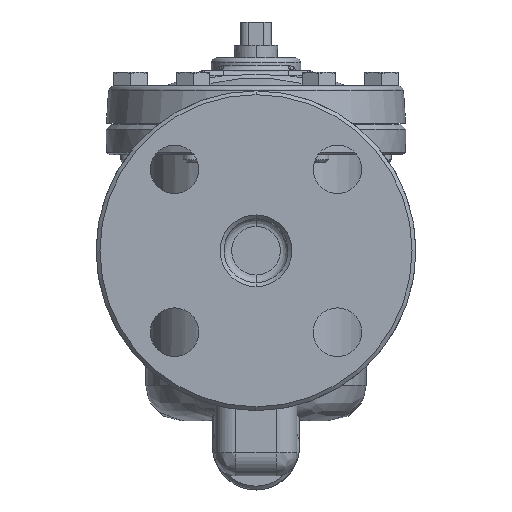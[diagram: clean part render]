
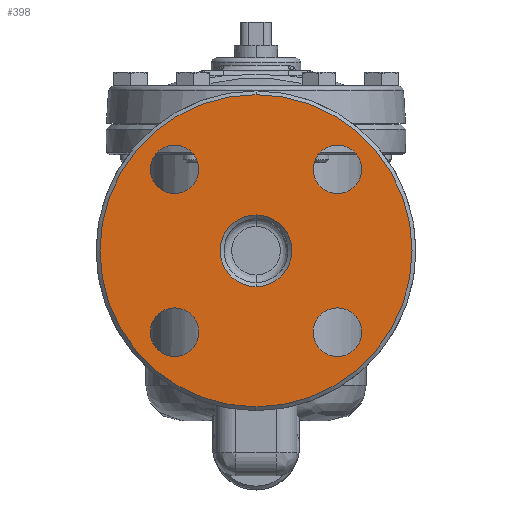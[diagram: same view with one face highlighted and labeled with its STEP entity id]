
A CAD part, left-side view. The second image highlights one B-rep face of the part: STEP entity #398.
In plain terms, the highlighted planar face has unit normal (-1, 0, 0).
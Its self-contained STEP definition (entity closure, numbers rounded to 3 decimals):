
#398=ADVANCED_FACE('',(#2102,#2103,#2104,#2105,#2106,#2107),#2101,.F.);
#2101=PLANE('',#5351);
#2102=FACE_OUTER_BOUND('',#5352,.T.);
#2103=FACE_BOUND('',#5353,.T.);
#2104=FACE_BOUND('',#5354,.T.);
#2105=FACE_BOUND('',#5355,.T.);
#2106=FACE_BOUND('',#5356,.T.);
#2107=FACE_BOUND('',#5357,.T.);
#5348=CARTESIAN_POINT('',(-87.5,-115.655,71.));
#5349=DIRECTION('',(1.,0.,0.));
#5350=DIRECTION('',(0.,0.,-1.));
#5351=AXIS2_PLACEMENT_3D('',#5348,#5349,#5350);
#5352=EDGE_LOOP('',(#7065,#7066));
#5353=EDGE_LOOP('',(#7067,#7068));
#5354=EDGE_LOOP('',(#7069,#7070));
#5355=EDGE_LOOP('',(#7071,#7072));
#5356=EDGE_LOOP('',(#7073,#7074));
#5357=EDGE_LOOP('',(#7075,#7076));
#7065=ORIENTED_EDGE('',*,*,#7985,.T.);
#7066=ORIENTED_EDGE('',*,*,#7986,.T.);
#7067=ORIENTED_EDGE('',*,*,#7987,.F.);
#7068=ORIENTED_EDGE('',*,*,#7988,.F.);
#7069=ORIENTED_EDGE('',*,*,#7989,.F.);
#7070=ORIENTED_EDGE('',*,*,#7990,.F.);
#7071=ORIENTED_EDGE('',*,*,#7991,.F.);
#7072=ORIENTED_EDGE('',*,*,#7992,.F.);
#7073=ORIENTED_EDGE('',*,*,#7993,.F.);
#7074=ORIENTED_EDGE('',*,*,#7994,.F.);
#7075=ORIENTED_EDGE('',*,*,#7995,.F.);
#7076=ORIENTED_EDGE('',*,*,#7996,.F.);
#7985=EDGE_CURVE('',#10868,#10869,#10870,.T.);
#7986=EDGE_CURVE('',#10869,#10868,#10876,.T.);
#7987=EDGE_CURVE('',#10882,#10883,#10884,.T.);
#7988=EDGE_CURVE('',#10883,#10882,#10890,.T.);
#7989=EDGE_CURVE('',#10896,#10897,#10898,.T.);
#7990=EDGE_CURVE('',#10897,#10896,#10904,.T.);
#7991=EDGE_CURVE('',#10910,#10911,#10912,.T.);
#7992=EDGE_CURVE('',#10911,#10910,#10918,.T.);
#7993=EDGE_CURVE('',#10924,#10925,#10926,.T.);
#7994=EDGE_CURVE('',#10925,#10924,#10932,.T.);
#7995=EDGE_CURVE('',#10938,#10939,#10940,.T.);
#7996=EDGE_CURVE('',#10939,#10938,#10946,.T.);
#10868=VERTEX_POINT('',#14715);
#10869=VERTEX_POINT('',#14716);
#10870=CIRCLE('',#14720,61.);
#10876=CIRCLE('',#14724,61.);
#10882=VERTEX_POINT('',#14725);
#10883=VERTEX_POINT('',#14726);
#10884=CIRCLE('',#14730,9.5);
#10890=CIRCLE('',#14734,9.5);
#10896=VERTEX_POINT('',#14735);
#10897=VERTEX_POINT('',#14736);
#10898=CIRCLE('',#14740,9.5);
#10904=CIRCLE('',#14744,9.5);
#10910=VERTEX_POINT('',#14745);
#10911=VERTEX_POINT('',#14746);
#10912=CIRCLE('',#14750,9.5);
#10918=CIRCLE('',#14754,9.5);
#10924=VERTEX_POINT('',#14755);
#10925=VERTEX_POINT('',#14756);
#10926=CIRCLE('',#14760,14.);
#10932=CIRCLE('',#14764,14.);
#10938=VERTEX_POINT('',#14765);
#10939=VERTEX_POINT('',#14766);
#10940=CIRCLE('',#14770,9.5);
#10946=CIRCLE('',#14774,9.5);
#14715=CARTESIAN_POINT('',(-87.5,0.,61.));
#14716=CARTESIAN_POINT('',(-87.5,0.,-61.));
#14717=CARTESIAN_POINT('',(-87.5,0.,0.));
#14718=DIRECTION('',(-1.,0.,0.));
#14719=DIRECTION('',(0.,0.,1.));
#14720=AXIS2_PLACEMENT_3D('',#14717,#14718,#14719);
#14721=CARTESIAN_POINT('',(-87.5,0.,0.));
#14722=DIRECTION('',(-1.,0.,0.));
#14723=DIRECTION('',(0.,0.,1.));
#14724=AXIS2_PLACEMENT_3D('',#14721,#14722,#14723);
#14725=CARTESIAN_POINT('',(-87.5,31.82,-22.32));
#14726=CARTESIAN_POINT('',(-87.5,31.82,-41.32));
#14727=CARTESIAN_POINT('',(-87.5,31.82,-31.82));
#14728=DIRECTION('',(-1.,0.,0.));
#14729=DIRECTION('',(0.,0.,-1.));
#14730=AXIS2_PLACEMENT_3D('',#14727,#14728,#14729);
#14731=CARTESIAN_POINT('',(-87.5,31.82,-31.82));
#14732=DIRECTION('',(-1.,0.,0.));
#14733=DIRECTION('',(0.,0.,-1.));
#14734=AXIS2_PLACEMENT_3D('',#14731,#14732,#14733);
#14735=CARTESIAN_POINT('',(-87.5,-31.82,-22.32));
#14736=CARTESIAN_POINT('',(-87.5,-31.82,-41.32));
#14737=CARTESIAN_POINT('',(-87.5,-31.82,-31.82));
#14738=DIRECTION('',(-1.,0.,0.));
#14739=DIRECTION('',(0.,0.,-1.));
#14740=AXIS2_PLACEMENT_3D('',#14737,#14738,#14739);
#14741=CARTESIAN_POINT('',(-87.5,-31.82,-31.82));
#14742=DIRECTION('',(-1.,0.,0.));
#14743=DIRECTION('',(0.,0.,-1.));
#14744=AXIS2_PLACEMENT_3D('',#14741,#14742,#14743);
#14745=CARTESIAN_POINT('',(-87.5,-31.82,41.32));
#14746=CARTESIAN_POINT('',(-87.5,-31.82,22.32));
#14747=CARTESIAN_POINT('',(-87.5,-31.82,31.82));
#14748=DIRECTION('',(-1.,0.,0.));
#14749=DIRECTION('',(0.,0.,-1.));
#14750=AXIS2_PLACEMENT_3D('',#14747,#14748,#14749);
#14751=CARTESIAN_POINT('',(-87.5,-31.82,31.82));
#14752=DIRECTION('',(-1.,0.,0.));
#14753=DIRECTION('',(0.,0.,-1.));
#14754=AXIS2_PLACEMENT_3D('',#14751,#14752,#14753);
#14755=CARTESIAN_POINT('',(-87.5,0.,-14.));
#14756=CARTESIAN_POINT('',(-87.5,0.,14.));
#14757=CARTESIAN_POINT('',(-87.5,0.,0.));
#14758=DIRECTION('',(-1.,0.,0.));
#14759=DIRECTION('',(0.,0.,1.));
#14760=AXIS2_PLACEMENT_3D('',#14757,#14758,#14759);
#14761=CARTESIAN_POINT('',(-87.5,0.,0.));
#14762=DIRECTION('',(-1.,0.,0.));
#14763=DIRECTION('',(0.,0.,1.));
#14764=AXIS2_PLACEMENT_3D('',#14761,#14762,#14763);
#14765=CARTESIAN_POINT('',(-87.5,31.82,41.32));
#14766=CARTESIAN_POINT('',(-87.5,31.82,22.32));
#14767=CARTESIAN_POINT('',(-87.5,31.82,31.82));
#14768=DIRECTION('',(-1.,0.,0.));
#14769=DIRECTION('',(0.,0.,-1.));
#14770=AXIS2_PLACEMENT_3D('',#14767,#14768,#14769);
#14771=CARTESIAN_POINT('',(-87.5,31.82,31.82));
#14772=DIRECTION('',(-1.,0.,0.));
#14773=DIRECTION('',(0.,0.,-1.));
#14774=AXIS2_PLACEMENT_3D('',#14771,#14772,#14773);
